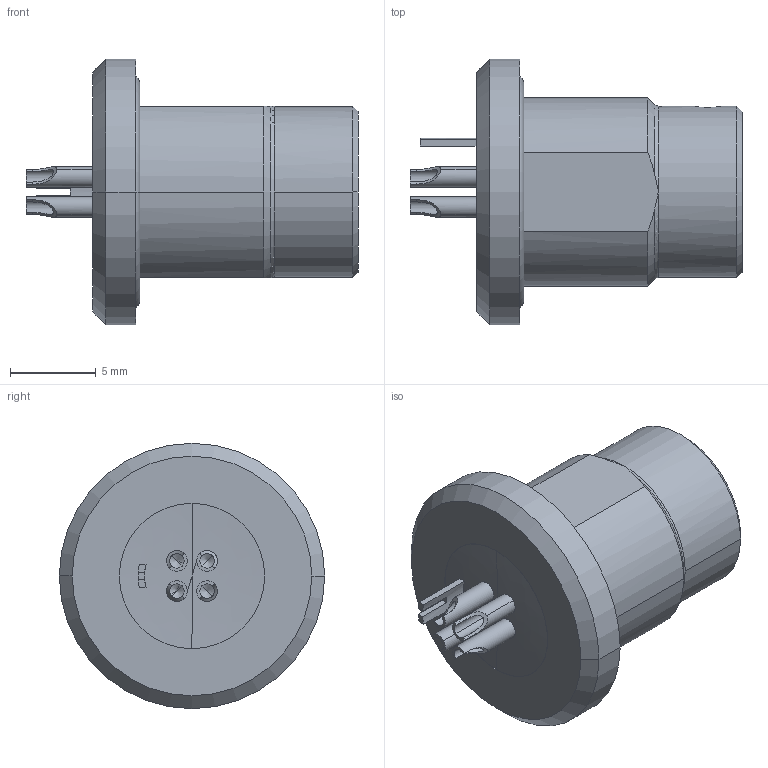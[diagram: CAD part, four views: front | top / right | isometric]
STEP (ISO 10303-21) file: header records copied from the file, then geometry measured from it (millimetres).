
FILE_DESCRIPTION((''),'2;1');
FILE_NAME('00051911----_ASM','2020-10-13T07:55:29',('EUnterhaslberger'),(''),'CREO PARAMETRIC BY PTC INC, 2018300','CREO PARAMETRIC BY PTC INC, 2018300','');
FILE_SCHEMA(('AP242_MANAGED_MODEL_BASED_3D_ENGINEERING_MIM_LF { 1 0 10303 442 1 1 4 }'));
Length unit declared in the file: millimetre
Products named in the file (5): TEMP_SW_STEP_MONOBLOCK_1_1_2_1; TEMP_SW_STEP_MONOBLOCK_1_1_2_2; TEMP_SW_STEP_MONOBLOCK_1_1_2_3; TEMP_SW_STEP_MONOBLOCK_1_1_2_ASM; 00051911----_ASM
Assembly tree (4 placements, depth 3):
  00051911----_ASM
    TEMP_SW_STEP_MONOBLOCK_1_1_2_ASM
      TEMP_SW_STEP_MONOBLOCK_1_1_2_1
      TEMP_SW_STEP_MONOBLOCK_1_1_2_2
      TEMP_SW_STEP_MONOBLOCK_1_1_2_3
Bounding box: 19.4 x 15.5 x 15.5 mm (x, y, z)
Volume: 1297.1 mm3; surface area: 1817.6 mm2
Topology: 3 solids, 3 shells, 181 faces, 498 edges, 325 vertices
Faces by surface type: plane 59, cylinder 58, cone 32, torus 30, bspline 2
Entity records: 7722 total; most frequent: CARTESIAN_POINT 1608, DIRECTION 1008, ORIENTED_EDGE 976, EDGE_CURVE 488, AXIS2_PLACEMENT_3D 403, VERTEX_POINT 325, CIRCLE 212, VECTOR 202
